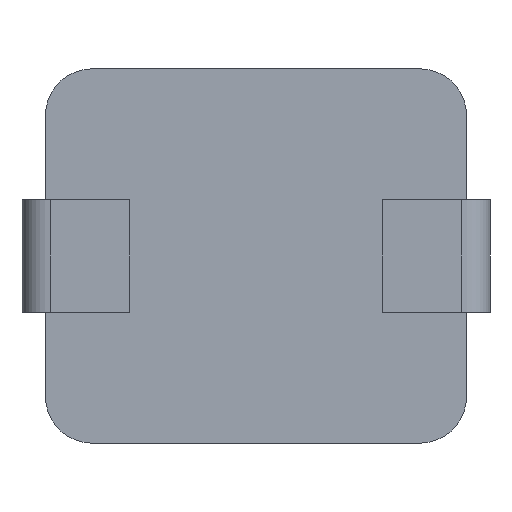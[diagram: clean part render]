
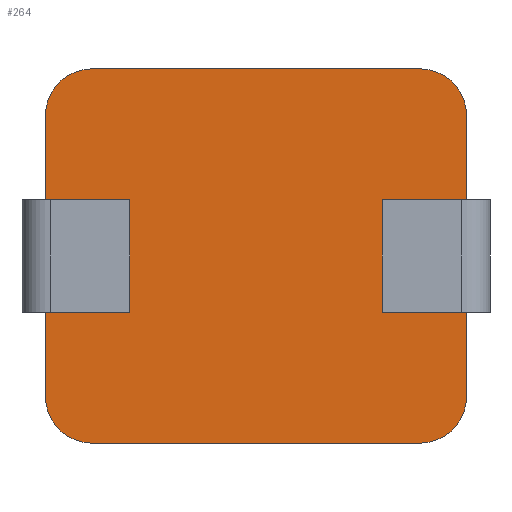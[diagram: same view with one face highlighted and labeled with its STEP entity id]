
A CAD part, front view. The second image highlights one B-rep face of the part: STEP entity #264.
In plain terms, the highlighted planar face has unit normal (0, -1, 0).
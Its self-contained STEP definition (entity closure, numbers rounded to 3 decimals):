
#17 = VERTEX_POINT ( 'NONE', #789 ) ;
#19 = EDGE_CURVE ( 'NONE', #17, #20, #788, .T. ) ;
#20 = VERTEX_POINT ( 'NONE', #784 ) ;
#107 = ORIENTED_EDGE ( 'NONE', *, *, #279, .F. ) ;
#108 = ORIENTED_EDGE ( 'NONE', *, *, #109, .F. ) ;
#109 = EDGE_CURVE ( 'NONE', #110, #277, #845, .T. ) ;
#110 = VERTEX_POINT ( 'NONE', #1011 ) ;
#111 = ORIENTED_EDGE ( 'NONE', *, *, #112, .F. ) ;
#112 = EDGE_CURVE ( 'NONE', #113, #110, #1010, .T. ) ;
#113 = VERTEX_POINT ( 'NONE', #1006 ) ;
#114 = ORIENTED_EDGE ( 'NONE', *, *, #115, .T. ) ;
#115 = EDGE_CURVE ( 'NONE', #113, #255, #1005, .T. ) ;
#121 = EDGE_CURVE ( 'NONE', #234, #262, #996, .T. ) ;
#129 = EDGE_CURVE ( 'NONE', #130, #131, #882, .T. ) ;
#130 = VERTEX_POINT ( 'NONE', #877 ) ;
#131 = VERTEX_POINT ( 'NONE', #876 ) ;
#140 = ORIENTED_EDGE ( 'NONE', *, *, #189, .F. ) ;
#141 = ORIENTED_EDGE ( 'NONE', *, *, #19, .F. ) ;
#142 = ORIENTED_EDGE ( 'NONE', *, *, #243, .F. ) ;
#143 = ORIENTED_EDGE ( 'NONE', *, *, #129, .F. ) ;
#144 = ORIENTED_EDGE ( 'NONE', *, *, #223, .F. ) ;
#145 = ORIENTED_EDGE ( 'NONE', *, *, #553, .F. ) ;
#149 = EDGE_CURVE ( 'NONE', #270, #255, #975, .T. ) ;
#164 = VERTEX_POINT ( 'NONE', #809 ) ;
#189 = EDGE_CURVE ( 'NONE', #20, #164, #1027, .T. ) ;
#215 = EDGE_CURVE ( 'NONE', #262, #216, #1169, .T. ) ;
#216 = VERTEX_POINT ( 'NONE', #1165 ) ;
#223 = EDGE_CURVE ( 'NONE', #580, #130, #1204, .T. ) ;
#233 = EDGE_CURVE ( 'NONE', #248, #234, #1065, .T. ) ;
#234 = VERTEX_POINT ( 'NONE', #1061 ) ;
#243 = EDGE_CURVE ( 'NONE', #131, #17, #1130, .T. ) ;
#247 = EDGE_CURVE ( 'NONE', #248, #164, #1126, .T. ) ;
#248 = VERTEX_POINT ( 'NONE', #1122 ) ;
#255 = VERTEX_POINT ( 'NONE', #1089 ) ;
#262 = VERTEX_POINT ( 'NONE', #1079 ) ;
#264 = ADVANCED_FACE ( 'NONE', ( #1078 ), #1077, .T. ) ;
#265 = EDGE_LOOP ( 'NONE', ( #266, #267, #140, #141, #142, #143, #144, #145, #107, #108, #111, #114, #367, #368, #369, #442 ) ) ;
#266 = ORIENTED_EDGE ( 'NONE', *, *, #233, .F. ) ;
#267 = ORIENTED_EDGE ( 'NONE', *, *, #247, .T. ) ;
#269 = EDGE_CURVE ( 'NONE', #216, #270, #1246, .T. ) ;
#270 = VERTEX_POINT ( 'NONE', #1378 ) ;
#277 = VERTEX_POINT ( 'NONE', #1232 ) ;
#279 = EDGE_CURVE ( 'NONE', #277, #280, #1383, .T. ) ;
#280 = VERTEX_POINT ( 'NONE', #1379 ) ;
#367 = ORIENTED_EDGE ( 'NONE', *, *, #149, .F. ) ;
#368 = ORIENTED_EDGE ( 'NONE', *, *, #269, .F. ) ;
#369 = ORIENTED_EDGE ( 'NONE', *, *, #215, .F. ) ;
#442 = ORIENTED_EDGE ( 'NONE', *, *, #121, .F. ) ;
#553 = EDGE_CURVE ( 'NONE', #280, #580, #1959, .T. ) ;
#580 = VERTEX_POINT ( 'NONE', #2164 ) ;
#784 = CARTESIAN_POINT ( 'NONE',  ( -1.35, 0.2, -0.6 ) ) ;
#785 = DIRECTION ( 'NONE',  ( 1., 0., 0. ) ) ;
#786 = VECTOR ( 'NONE', #785, 1000. ) ;
#787 = CARTESIAN_POINT ( 'NONE',  ( 2.2, 0.2, -0.6 ) ) ;
#788 = LINE ( 'NONE', #787, #786 ) ;
#789 = CARTESIAN_POINT ( 'NONE',  ( -2.25, 0.2, -0.6 ) ) ;
#809 = CARTESIAN_POINT ( 'NONE',  ( -1.35, 0.2, 0.6 ) ) ;
#845 = LINE ( 'NONE', #1014, #1013 ) ;
#876 = CARTESIAN_POINT ( 'NONE',  ( -2.25, 0.2, -1.5 ) ) ;
#877 = CARTESIAN_POINT ( 'NONE',  ( -1.75, 0.2, -2. ) ) ;
#878 = DIRECTION ( 'NONE',  ( 0., 0., -1. ) ) ;
#879 = DIRECTION ( 'NONE',  ( 0., 1., 0. ) ) ;
#880 = CARTESIAN_POINT ( 'NONE',  ( -1.75, 0.2, -1.5 ) ) ;
#881 = AXIS2_PLACEMENT_3D ( 'NONE', #880, #879, #878 ) ;
#882 = CIRCLE ( 'NONE', #881, 0.5 ) ;
#972 = DIRECTION ( 'NONE',  ( 0., 0., -1. ) ) ;
#973 = VECTOR ( 'NONE', #972, 1000. ) ;
#974 = CARTESIAN_POINT ( 'NONE',  ( 2.25, 0.2, 1.5 ) ) ;
#975 = LINE ( 'NONE', #974, #973 ) ;
#987 = DIRECTION ( 'NONE',  ( 0., 0., -1. ) ) ;
#988 = DIRECTION ( 'NONE',  ( 0., 1., 0. ) ) ;
#989 = CARTESIAN_POINT ( 'NONE',  ( -1.75, 0.2, 1.5 ) ) ;
#990 = AXIS2_PLACEMENT_3D ( 'NONE', #989, #988, #987 ) ;
#996 = CIRCLE ( 'NONE', #990, 0.5 ) ;
#1002 = DIRECTION ( 'NONE',  ( 1., 0., 0. ) ) ;
#1003 = VECTOR ( 'NONE', #1002, 1000. ) ;
#1004 = CARTESIAN_POINT ( 'NONE',  ( 2.2, 0.2, 0.6 ) ) ;
#1005 = LINE ( 'NONE', #1004, #1003 ) ;
#1006 = CARTESIAN_POINT ( 'NONE',  ( 1.35, 0.2, 0.6 ) ) ;
#1007 = DIRECTION ( 'NONE',  ( 0., 0., -1. ) ) ;
#1008 = VECTOR ( 'NONE', #1007, 1000. ) ;
#1009 = CARTESIAN_POINT ( 'NONE',  ( 1.35, 0.2, 0.6 ) ) ;
#1010 = LINE ( 'NONE', #1009, #1008 ) ;
#1011 = CARTESIAN_POINT ( 'NONE',  ( 1.35, 0.2, -0.6 ) ) ;
#1012 = DIRECTION ( 'NONE',  ( 1., 0., 0. ) ) ;
#1013 = VECTOR ( 'NONE', #1012, 1000. ) ;
#1014 = CARTESIAN_POINT ( 'NONE',  ( 2.2, 0.2, -0.6 ) ) ;
#1024 = DIRECTION ( 'NONE',  ( 0., 0., 1. ) ) ;
#1025 = VECTOR ( 'NONE', #1024, 1000. ) ;
#1026 = CARTESIAN_POINT ( 'NONE',  ( -1.35, 0.2, 0.6 ) ) ;
#1027 = LINE ( 'NONE', #1026, #1025 ) ;
#1061 = CARTESIAN_POINT ( 'NONE',  ( -2.25, 0.2, 1.5 ) ) ;
#1062 = DIRECTION ( 'NONE',  ( 0., 0., 1. ) ) ;
#1063 = VECTOR ( 'NONE', #1062, 1000. ) ;
#1064 = CARTESIAN_POINT ( 'NONE',  ( -2.25, 0.2, 1.5 ) ) ;
#1065 = LINE ( 'NONE', #1064, #1063 ) ;
#1071 = DIRECTION ( 'NONE',  ( 0., 0., -1. ) ) ;
#1072 = DIRECTION ( 'NONE',  ( 0., -1., 0. ) ) ;
#1073 = CARTESIAN_POINT ( 'NONE',  ( -1.75, 0.2, -1.5 ) ) ;
#1074 = AXIS2_PLACEMENT_3D ( 'NONE', #1073, #1072, #1071 ) ;
#1077 = PLANE ( 'NONE',  #1074 ) ;
#1078 = FACE_OUTER_BOUND ( 'NONE', #265, .T. ) ;
#1079 = CARTESIAN_POINT ( 'NONE',  ( -1.75, 0.2, 2. ) ) ;
#1089 = CARTESIAN_POINT ( 'NONE',  ( 2.25, 0.2, 0.6 ) ) ;
#1122 = CARTESIAN_POINT ( 'NONE',  ( -2.25, 0.2, 0.6 ) ) ;
#1123 = DIRECTION ( 'NONE',  ( 1., 0., 0. ) ) ;
#1124 = VECTOR ( 'NONE', #1123, 1000. ) ;
#1125 = CARTESIAN_POINT ( 'NONE',  ( 2.2, 0.2, 0.6 ) ) ;
#1126 = LINE ( 'NONE', #1125, #1124 ) ;
#1127 = DIRECTION ( 'NONE',  ( 0., 0., 1. ) ) ;
#1128 = VECTOR ( 'NONE', #1127, 1000. ) ;
#1129 = CARTESIAN_POINT ( 'NONE',  ( -2.25, 0.2, 1.5 ) ) ;
#1130 = LINE ( 'NONE', #1129, #1128 ) ;
#1165 = CARTESIAN_POINT ( 'NONE',  ( 1.75, 0.2, 2. ) ) ;
#1166 = DIRECTION ( 'NONE',  ( 1., 0., 0. ) ) ;
#1167 = VECTOR ( 'NONE', #1166, 1000. ) ;
#1168 = CARTESIAN_POINT ( 'NONE',  ( -1.75, 0.2, 2. ) ) ;
#1169 = LINE ( 'NONE', #1168, #1167 ) ;
#1201 = DIRECTION ( 'NONE',  ( -1., 0., 0. ) ) ;
#1202 = VECTOR ( 'NONE', #1201, 1000. ) ;
#1203 = CARTESIAN_POINT ( 'NONE',  ( -1.75, 0.2, -2. ) ) ;
#1204 = LINE ( 'NONE', #1203, #1202 ) ;
#1232 = CARTESIAN_POINT ( 'NONE',  ( 2.25, 0.2, -0.6 ) ) ;
#1242 = DIRECTION ( 'NONE',  ( 0., 0., 1. ) ) ;
#1243 = DIRECTION ( 'NONE',  ( 0., 1., 0. ) ) ;
#1244 = CARTESIAN_POINT ( 'NONE',  ( 1.75, 0.2, 1.5 ) ) ;
#1245 = AXIS2_PLACEMENT_3D ( 'NONE', #1244, #1243, #1242 ) ;
#1246 = CIRCLE ( 'NONE', #1245, 0.5 ) ;
#1378 = CARTESIAN_POINT ( 'NONE',  ( 2.25, 0.2, 1.5 ) ) ;
#1379 = CARTESIAN_POINT ( 'NONE',  ( 2.25, 0.2, -1.5 ) ) ;
#1380 = DIRECTION ( 'NONE',  ( 0., 0., -1. ) ) ;
#1381 = VECTOR ( 'NONE', #1380, 1000. ) ;
#1382 = CARTESIAN_POINT ( 'NONE',  ( 2.25, 0.2, 1.5 ) ) ;
#1383 = LINE ( 'NONE', #1382, #1381 ) ;
#1955 = DIRECTION ( 'NONE',  ( 0., 0., -1. ) ) ;
#1956 = DIRECTION ( 'NONE',  ( 0., 1., 0. ) ) ;
#1957 = CARTESIAN_POINT ( 'NONE',  ( 1.75, 0.2, -1.5 ) ) ;
#1958 = AXIS2_PLACEMENT_3D ( 'NONE', #1957, #1956, #1955 ) ;
#1959 = CIRCLE ( 'NONE', #1958, 0.5 ) ;
#2164 = CARTESIAN_POINT ( 'NONE',  ( 1.75, 0.2, -2. ) ) ;
